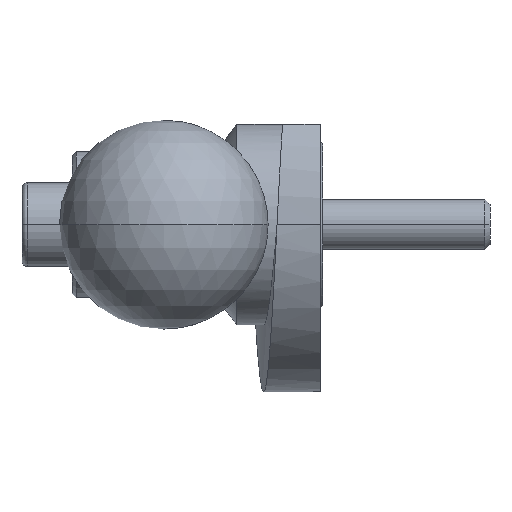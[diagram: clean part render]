
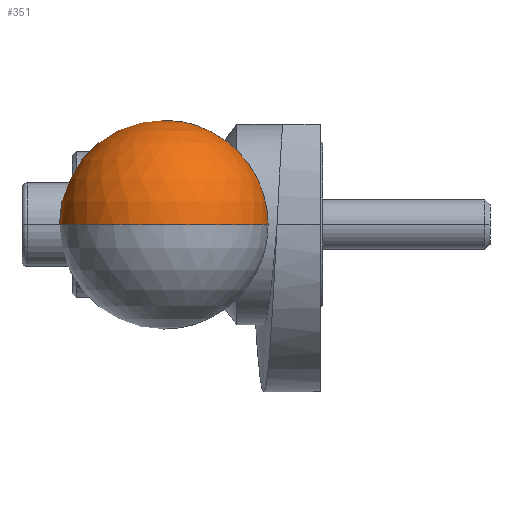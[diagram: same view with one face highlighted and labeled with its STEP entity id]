
A CAD part, left-side view. The second image highlights one B-rep face of the part: STEP entity #351.
In plain terms, the highlighted spherical face has radius 12.5 mm.
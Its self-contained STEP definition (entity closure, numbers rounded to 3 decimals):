
#31 = SPHERICAL_SURFACE ( 'NONE', #369, 12.5 ) ;
#57 = EDGE_CURVE ( 'NONE', #1097, #1617, #490, .T. ) ;
#89 = EDGE_LOOP ( 'NONE', ( #1164, #692, #1396 ) ) ;
#179 = DIRECTION ( 'NONE',  ( 1., 0., 0. ) ) ;
#351 = ADVANCED_FACE ( 'NONE', ( #1459 ), #31, .T. ) ;
#369 = AXIS2_PLACEMENT_3D ( 'NONE', #657, #502, #1126 ) ;
#412 = CARTESIAN_POINT ( 'NONE',  ( -87.5, 8.75, 0. ) ) ;
#490 = CIRCLE ( 'NONE', #1469, 12.5 ) ;
#502 = DIRECTION ( 'NONE',  ( 0., 0., -1. ) ) ;
#518 = DIRECTION ( 'NONE',  ( 1., 0., 0. ) ) ;
#640 = DIRECTION ( 'NONE',  ( 0., 0., 1. ) ) ;
#657 = CARTESIAN_POINT ( 'NONE',  ( -87.5, 8.75, 0. ) ) ;
#692 = ORIENTED_EDGE ( 'NONE', *, *, #57, .T. ) ;
#733 = CIRCLE ( 'NONE', #1316, 7.5 ) ;
#977 = DIRECTION ( 'NONE',  ( 0., 1., 0. ) ) ;
#999 = CARTESIAN_POINT ( 'NONE',  ( -100., 8.75, 0. ) ) ;
#1030 = DIRECTION ( 'NONE',  ( 0., 1., 0. ) ) ;
#1095 = CARTESIAN_POINT ( 'NONE',  ( -87.5, 8.75, 0. ) ) ;
#1097 = VERTEX_POINT ( 'NONE', #999 ) ;
#1126 = DIRECTION ( 'NONE',  ( 0., -1., 0. ) ) ;
#1153 = CARTESIAN_POINT ( 'NONE',  ( -77.5, 16.25, 0. ) ) ;
#1164 = ORIENTED_EDGE ( 'NONE', *, *, #1900, .F. ) ;
#1172 = EDGE_CURVE ( 'NONE', #1696, #1617, #733, .T. ) ;
#1212 = AXIS2_PLACEMENT_3D ( 'NONE', #412, #1477, #1030 ) ;
#1271 = CARTESIAN_POINT ( 'NONE',  ( -77.5, 8.75, 0. ) ) ;
#1316 = AXIS2_PLACEMENT_3D ( 'NONE', #1271, #518, #977 ) ;
#1396 = ORIENTED_EDGE ( 'NONE', *, *, #1172, .F. ) ;
#1459 = FACE_OUTER_BOUND ( 'NONE', #89, .T. ) ;
#1469 = AXIS2_PLACEMENT_3D ( 'NONE', #1095, #640, #179 ) ;
#1477 = DIRECTION ( 'NONE',  ( 0., 0., -1. ) ) ;
#1540 = CIRCLE ( 'NONE', #1212, 12.5 ) ;
#1617 = VERTEX_POINT ( 'NONE', #1708 ) ;
#1696 = VERTEX_POINT ( 'NONE', #1153 ) ;
#1708 = CARTESIAN_POINT ( 'NONE',  ( -77.5, 1.25, 0. ) ) ;
#1900 = EDGE_CURVE ( 'NONE', #1097, #1696, #1540, .T. ) ;
